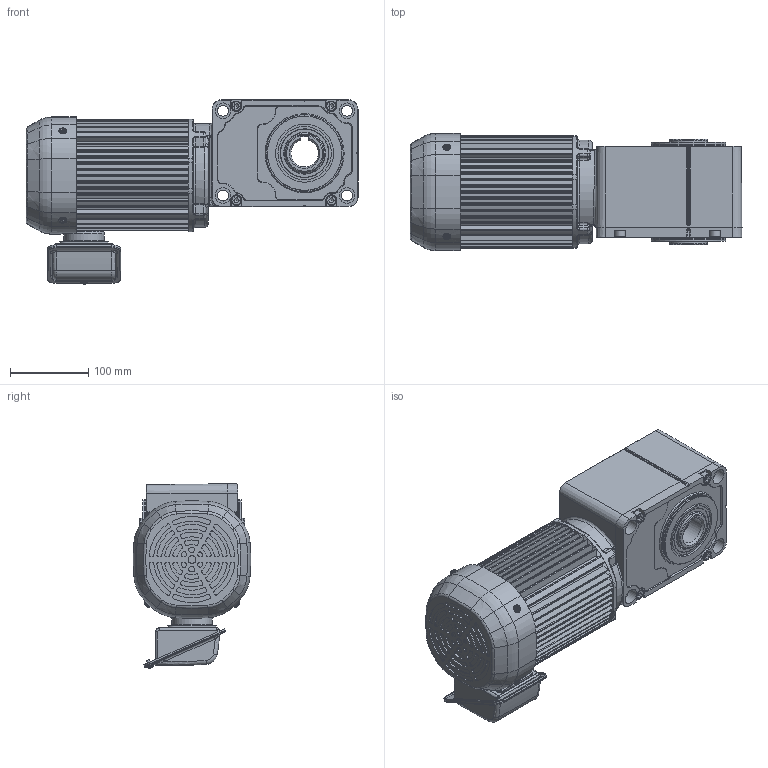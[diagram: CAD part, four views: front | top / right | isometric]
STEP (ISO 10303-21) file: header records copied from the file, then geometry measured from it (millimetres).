
FILE_DESCRIPTION( ( 'Unknown' ), '1' );
FILE_NAME( 'X:/gear/gm/3D-WEB/IE3/SSYP/ﾊﾟｰﾂ/完成品/ssypf_075_40-60.stp', 'Unknown', ( 'Unknown' ), ( 'Unknown' ), 'PSStep 14.0', 'Unknown', ' ' );
FILE_SCHEMA( ( 'AUTOMOTIVE_DESIGN { 1 0 10303 214 1 1 1 1 }' ) );
Length unit declared in the file: millimetre
Products named in the file (1): P165164_ｷﾞﾔｹｰｽ(0.75-35)
Bounding box: 423 x 149.43 x 234.85 mm (x, y, z)
Volume: 6289706.4 mm3; surface area: 551159.8 mm2
Topology: 1 solids, 21 shells, 1575 faces, 3979 edges, 2542 vertices
Faces by surface type: cylinder 704, plane 544, torus 117, cone 100, bspline 90, sphere 20
Full cylindrical faces by diameter (mm): 3.8 x6, 4.134 x4, 4.2 x8, 4.5 x8, 4.8 x1, 5.5 x4, 5.6 x1, 5.8 x4, 6 x8, 7 x5, 8 x4, 8.8 x4, 10 x6, 13 x4, 14 x4, 20 x8, 23 x1, 25 x3, 28.6 x1, 48 x6, 50 x3, 51.2 x1, 55 x1, 62 x3, 68 x2, 74 x2, 94.7 x1, 94.872 x1, 95 x4, 98.5 x1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
Entity records: 70262 total; most frequent: CARTESIAN_POINT 20147, DIRECTION 8297, ORIENTED_EDGE 7426, EDGE_CURVE 3713, AXIS2_PLACEMENT_3D 3295, VERTEX_POINT 2466, EDGE_LOOP 1877, CIRCLE 1752
